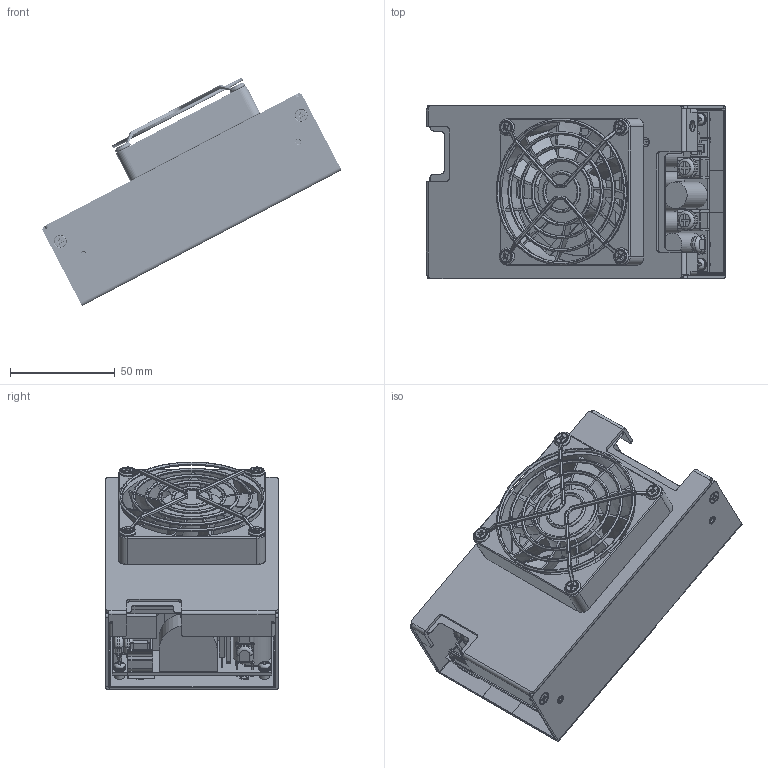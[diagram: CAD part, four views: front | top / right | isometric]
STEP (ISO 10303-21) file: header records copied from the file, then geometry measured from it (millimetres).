
FILE_DESCRIPTION(/* description */ (''),/* implementation_level */ '2;1');
FILE_NAME(/* name */ 'D:\Inventor\3D FILE\MQF500E.stp',/* time_stamp */ '2020-03-13T11:51:45+08:00',/* author */ ('peter'),/* organization */ (''),/* preprocessor_version */ 'ST-DEVELOPER v15.2',/* originating_system */ 'Autodesk Inventor 2014',/* authorisation */ '');
FILE_SCHEMA (('AUTOMOTIVE_DESIGN { 1 0 10303 214 3 1 1 }'));
Products named in the file (51): U CASE 1; M3 x 4r5 mm; M3 - 1r5 mm; PCB - MQF500; R378MQF50001; R378MQF50003; TO-220; TO-220FP; BD1; PH-15; SCREW CH M3_5mm; SCREW PH M3_04mm; HEATSINK - X1 & X3; X2; TO-220_1; TO-220_2; TO-220_3; TO-220_4; INSULATOR 13_19_0.23mm; TW-1; HEATSINK - X2; PCB - MQF500 - M; VR; LED; 2 mm - CN4; 2r5 mm - 2P; A TYPE - IN 2+1P; PCB-50_M5; RT1; Y - C; Y - C_1; Y - C_2; Y - C_3; Y - C_4; Y - C_5; Y - C_6; SCREW CH_W  M5_10mm; MYLAR _ 12.5x12.5x9 mm L TYPE; MYLAR - U CASE 2; SCREW CH_W  M3_6mm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
Bounding box: 142.71 x 82.55 x 108.75 mm (x, y, z)
Volume: 253491.9 mm3; surface area: 243320 mm2
Topology: 103 solids, 103 shells, 4574 faces, 11568 edges, 7408 vertices
Faces by surface type: plane 2695, cylinder 771, bspline 692, torus 208, cone 197, sphere 11
Full cylindrical faces by diameter (mm): 0.45 x3, 0.5 x1, 0.6 x16, 0.8 x2, 1.6 x5, 1.85 x2, 2.459 x37, 3 x34, 3.1 x4, 3.2 x15, 3.323 x1, 3.33 x1, 3.409 x1, 3.457 x1, 3.5 x9, 3.6 x4, 3.85 x5, 4 x22, 4.134 x2, 4.5 x8, 4.7 x5, 5 x7, 5.045 x1, 5.08 x1, 5.8 x16, 6 x6, 6.085 x1, 6.8 x1, 8 x4, 8.071 x1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
Entity records: 111179 total; most frequent: CARTESIAN_POINT 29613, ORIENTED_EDGE 16922, DIRECTION 14352, EDGE_CURVE 8461, VERTEX_POINT 5578, LINE 5486, VECTOR 5486, AXIS2_PLACEMENT_3D 4433
